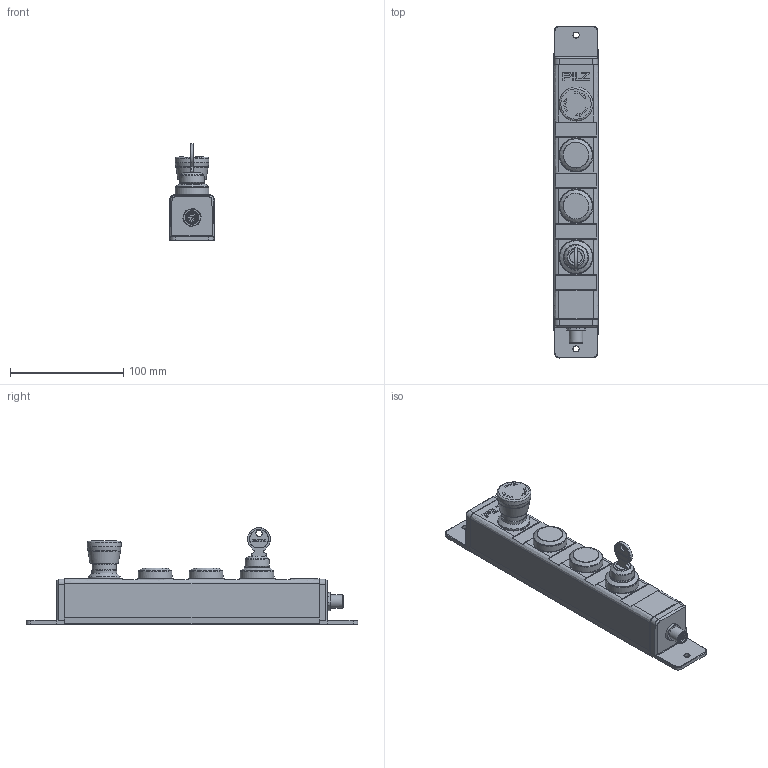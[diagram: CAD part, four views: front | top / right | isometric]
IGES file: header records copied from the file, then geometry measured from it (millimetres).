
Global section: file name: 2030185_B_PIT_gb_BLLE y; native system: Autodesk Inventor 2020; preprocessor: unknown; author: ES-PE; date: 20210415.144227; units: millimetre
Bounding box: 40 x 293 x 85.12 mm (x, y, z)
Volume: 424926 mm3; surface area: 62390.8 mm2
Topology: 6 solids, 6 shells, 964 faces, 2533 edges, 1662 vertices
Faces by surface type: bspline 964
